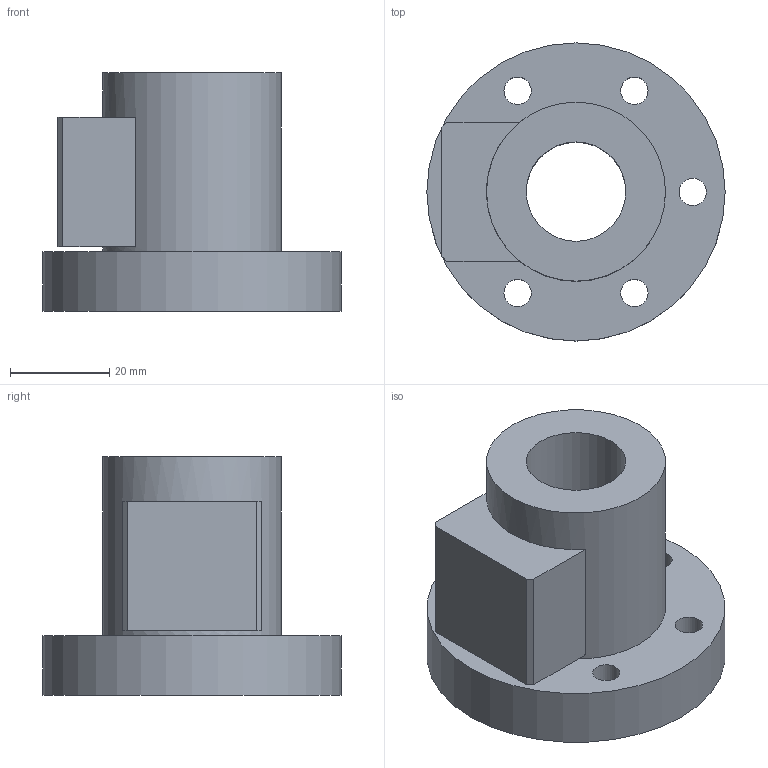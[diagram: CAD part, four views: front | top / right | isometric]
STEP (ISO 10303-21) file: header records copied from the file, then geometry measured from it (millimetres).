
FILE_DESCRIPTION(/* description */ (''),/* implementation_level */ '2;1');
FILE_NAME(/* name */ '20-6B1',/* time_stamp */ '2006-06-16T09:34:38+08:00',/* author */ (''),/* organization */ (''),/* preprocessor_version */ 'ST-DEVELOPER v9',/* originating_system */ 'UGS - NX 4.0',/* authorisation */ '');
FILE_SCHEMA (('CONFIG_CONTROL_DESIGN'));
Length unit declared in the file: millimetre
Products named in the file (1): 20-6B1
Bounding box: 60 x 60 x 48 mm (x, y, z)
Volume: 60776.7 mm3; surface area: 16815.6 mm2
Topology: 1 solids, 1 shells, 28 faces, 61 edges, 42 vertices
Faces by surface type: plane 15, cylinder 13
Full cylindrical faces by diameter (mm): 5.5 x5, 9.5 x5, 20 x1, 36 x1, 60 x1
Entity records: 794 total; most frequent: DIRECTION 130, CARTESIAN_POINT 111, ORIENTED_EDGE 88, EDGE_LOOP 60, AXIS2_PLACEMENT_3D 57, FACE_BOUND 45, EDGE_CURVE 44, VERTEX_POINT 38
